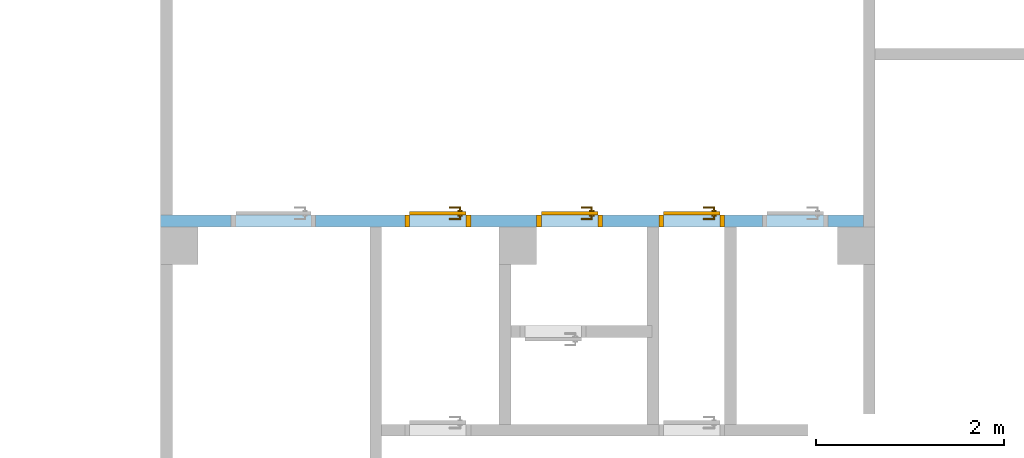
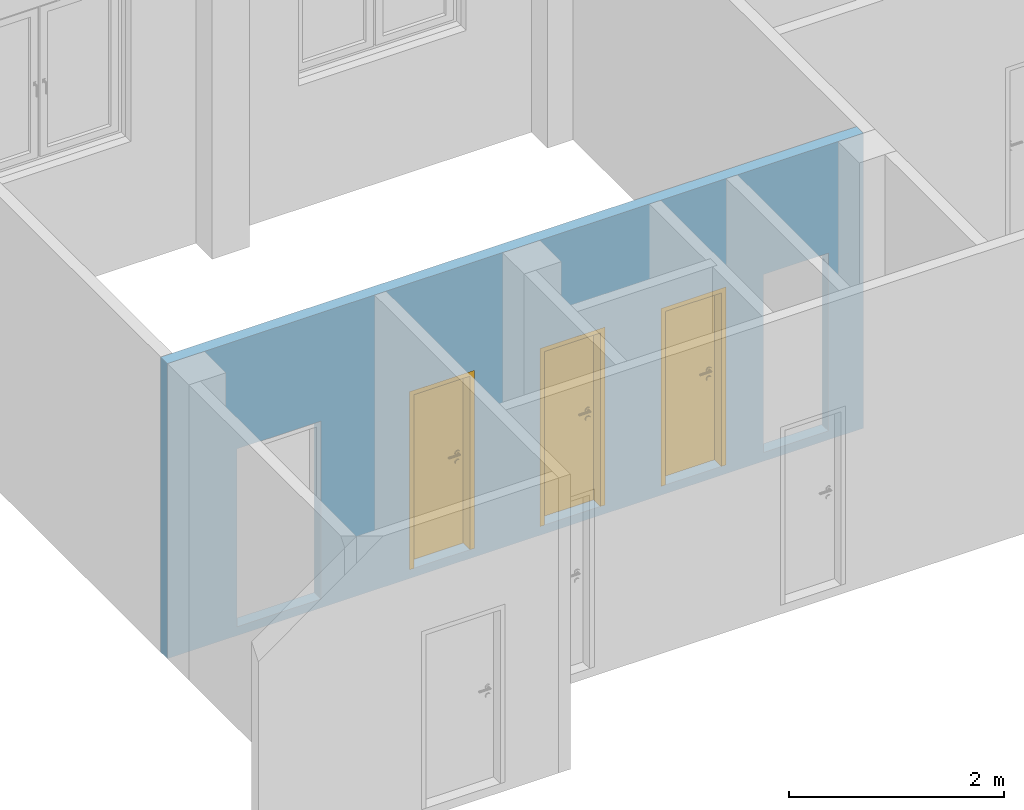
# One storey, part 5 of 37: 3 doors, 5 openings, plus 1 element that does not belong to this part.
"""IFC4 building model written with IfcOpenShell, lengths in metres."""

import ifcopenshell
import ifcopenshell.guid

model = None  # the IFC model being written
_history = None  # IfcOwnerHistory: only IFC2X3 demands one
_inside = {}  # id of a spatial element -> (the spatial element, [elements in it])
_under = {}  # id of a project, library or spatial element -> (it, [spatial elements below it])
_declared = {}  # id of a project -> (the project, [libraries it declares])
_typed = {}  # id of a type object -> (the type object, [elements of that type])
_made_of = {}  # id of a material, layer set ... -> (it, [elements and type objects made of it])


def new_model(schema):
    """Start an empty IFC model of exactly this schema.

    Asked for "IFC4X3", IfcOpenShell would pick the latest addendum, in which some entities
    have other attributes; the version numbers below select the first issue.
    IFC2X3 requires an IfcOwnerHistory on every rooted entity: one is made here for all.
    """
    global model, _history
    if schema == "IFC4X3":
        model = ifcopenshell.file(schema_version=(4, 3, 0, 0))
    else:
        model = ifcopenshell.file(schema=schema)
    _inside.clear()
    _under.clear()
    _declared.clear()
    _typed.clear()
    _made_of.clear()
    _history = None
    if model.schema == "IFC2X3":
        org = make("IfcOrganization", Name="unknown")
        user = make(
            "IfcPersonAndOrganization",
            ThePerson=make("IfcPerson", FamilyName="unknown"),
            TheOrganization=org,
        )
        app = make(
            "IfcApplication",
            ApplicationDeveloper=org,
            Version="unknown",
            ApplicationFullName="unknown",
            ApplicationIdentifier="unknown",
        )
        _history = make(
            "IfcOwnerHistory",
            OwningUser=user,
            OwningApplication=app,
            ChangeAction="ADDED",
            CreationDate=0,
        )
    return model


def make(cls, **values):
    """One entity of the class cls with the attributes given. An attribute that is None is left unset."""
    return model.create_entity(
        cls, **{name: value for name, value in values.items() if value is not None}
    )


def entity(cls, *values):
    """Any entity or typed value of the class cls, its attributes in the order of the schema. None: left unset."""
    e = model.create_entity(cls)
    for i, value in enumerate(values):
        if value is not None:
            e[i] = value
    return e


def rooted(cls, **values):
    """An entity with a GlobalId (a new one), such as an element, a storey or a relation."""
    return make(cls, GlobalId=ifcopenshell.guid.new(), OwnerHistory=_history, **values)


def si_unit(unit_type, name, prefix=None):
    """IfcSIUnit, for example si_unit("LENGTHUNIT", "METRE", prefix="MILLI")."""
    return make("IfcSIUnit", UnitType=unit_type, Prefix=prefix, Name=name)


def converted_unit(unit_type, name, factor, base, dimensions=None, offset=None):
    """IfcConversionBasedUnit, such as the inch: factor (a typed value) times the base unit."""
    return make(
        "IfcConversionBasedUnit"
        if offset is None
        else "IfcConversionBasedUnitWithOffset",
        ConversionOffset=offset,
        Dimensions=None
        if dimensions is None
        else entity("IfcDimensionalExponents", *dimensions),
        UnitType=unit_type,
        Name=name,
        ConversionFactor=make(
            "IfcMeasureWithUnit", ValueComponent=factor, UnitComponent=base
        ),
    )


def derived_unit(unit_type, elements):
    """IfcDerivedUnit: a product of units, each with its exponent."""
    return make(
        "IfcDerivedUnit",
        Elements=[
            make("IfcDerivedUnitElement", Unit=unit, Exponent=power)
            for unit, power in elements
        ],
        UnitType=unit_type,
    )


def assignment(units):
    """IfcUnitAssignment: the units of a project."""
    return None if units is None else make("IfcUnitAssignment", Units=units)


def point(xyz):
    """IfcCartesianPoint."""
    return None if xyz is None else make("IfcCartesianPoint", Coordinates=xyz)


def direction(xyz):
    """IfcDirection."""
    return None if xyz is None else make("IfcDirection", DirectionRatios=xyz)


def frame(location, z_axis=None, x_axis=None):
    """IfcAxis2Placement3D, a coordinate frame: its origin and axes. An axis left out is left unset."""
    return make(
        "IfcAxis2Placement3D",
        Location=point(location),
        Axis=direction(z_axis),
        RefDirection=direction(x_axis),
    )


def frame_2d(location, x_axis=None):
    """IfcAxis2Placement2D, a coordinate frame in the plane: its origin and x axis."""
    return make(
        "IfcAxis2Placement2D", Location=point(location), RefDirection=direction(x_axis)
    )


def origin():
    """The frame at (0, 0, 0) with its axes left unset."""
    return frame((0.0, 0.0, 0.0))


def origin_with_axes():
    """The frame at (0, 0, 0) with the z axis (0, 0, 1) and the x axis (1, 0, 0) written out."""
    return frame((0.0, 0.0, 0.0), z_axis=(0.0, 0.0, 1.0), x_axis=(1.0, 0.0, 0.0))


def place(relative_to, where):
    """IfcLocalPlacement: puts the frame where relative to a parent placement (None: the world)."""
    return make(
        "IfcLocalPlacement", PlacementRelTo=relative_to, RelativePlacement=where
    )


def context(
    kind, dimensions, precision=None, world=None, true_north=None, identifier=None
):
    """IfcGeometricRepresentationContext, for example the 3D "Model" context."""
    return make(
        "IfcGeometricRepresentationContext",
        ContextIdentifier=identifier,
        ContextType=kind,
        CoordinateSpaceDimension=dimensions,
        Precision=precision,
        WorldCoordinateSystem=world,
        TrueNorth=true_north,
    )


def subcontext(parent, identifier, kind, view, scale=None):
    """IfcGeometricRepresentationSubContext, for example "Body" below "Model"."""
    return make(
        "IfcGeometricRepresentationSubContext",
        ContextIdentifier=identifier,
        ContextType=kind,
        ParentContext=parent,
        TargetScale=scale,
        TargetView=view,
    )


def project(units=None, contexts=None):
    """IfcProject with its units and contexts."""
    return rooted(
        "IfcProject",
        Name="project",
        RepresentationContexts=contexts,
        UnitsInContext=assignment(units),
    )


def spatial(cls, under=None, at=None, **own):
    """A site, building, storey or space (cls), placed at a placement, below another one or the project."""
    s = rooted(cls, ObjectPlacement=at, **own)
    if under is not None:
        _under.setdefault(under.id(), (under, []))[1].append(s)
    return s


def polyline(points):
    """IfcPolyline through the points."""
    return make("IfcPolyline", Points=[point(p) for p in points])


def profile(cls, at=None, kind="AREA", **sizes):
    """A parametric profile (cls). Its sizes go by their IFC names, for example OverallWidth=200.0."""
    return make(cls, ProfileType=kind, Position=at, **sizes)


def rectangle(**sizes):
    """IfcRectangleProfileDef."""
    return profile("IfcRectangleProfileDef", **sizes)


def outline(outer, holes=None, kind="AREA"):
    """IfcArbitraryClosedProfileDef: a profile drawn as a closed curve; with holes, ...WithVoids."""
    if holes is None:
        return make("IfcArbitraryClosedProfileDef", ProfileType=kind, OuterCurve=outer)
    return make(
        "IfcArbitraryProfileDefWithVoids",
        ProfileType=kind,
        OuterCurve=outer,
        InnerCurves=holes,
    )


def extrude(swept, where, along, depth):
    """IfcExtrudedAreaSolid: the profile swept, set in the frame where, extruded along a direction by depth."""
    return make(
        "IfcExtrudedAreaSolid",
        SweptArea=swept,
        Position=where,
        ExtrudedDirection=direction(along),
        Depth=depth,
    )


def faces_of(points, faces, orient=None, outer=None):
    """IfcFace entities. A face is a list of loops; a loop is a list of indices into points, from 0.

    orient and outer hold one flag for each loop. By default every Orientation is true, the
    first loop of a face is its IfcFaceOuterBound and the others are IfcFaceBound.
    """
    made = []
    for i, loops in enumerate(faces):
        bounds = []
        for j, loop in enumerate(loops):
            is_outer = j == 0 if outer is None else outer[i][j]
            bounds.append(
                make(
                    "IfcFaceOuterBound" if is_outer else "IfcFaceBound",
                    Bound=make("IfcPolyLoop", Polygon=[points[k] for k in loop]),
                    Orientation=True if orient is None else orient[i][j],
                )
            )
        made.append(make("IfcFace", Bounds=bounds))
    return made


def closed_shell(faces, orient=None, outer=None):
    """The faces of one IfcClosedShell. faceted_brep and surface_model build it on their shared points."""
    return ("IfcClosedShell", faces, orient, outer)


def open_shell(faces, orient=None, outer=None):
    """The faces of one IfcOpenShell. surface_model builds it on its shared points."""
    return ("IfcOpenShell", faces, orient, outer)


def surface_model(cls, points, shells):
    """IfcFaceBasedSurfaceModel or IfcShellBasedSurfaceModel (cls): surfaces that need not close."""
    shared = [point(p) for p in points]
    made = [make(c, CfsFaces=faces_of(shared, fs, o, b)) for c, fs, o, b in shells]
    if cls == "IfcFaceBasedSurfaceModel":
        return make(cls, FbsmFaces=made)
    return make(cls, SbsmBoundary=made)


def shape(context_of_items, identifier, shape_type, items):
    """IfcShapeRepresentation: the items that make up one representation, for example the "Body"."""
    return make(
        "IfcShapeRepresentation",
        ContextOfItems=context_of_items,
        RepresentationIdentifier=identifier,
        RepresentationType=shape_type,
        Items=items,
    )


def source(mapping_origin, context_of_items, identifier, shape_type, items):
    """IfcRepresentationMap: a shape defined once, which mapped items show again and again."""
    return make(
        "IfcRepresentationMap",
        MappingOrigin=mapping_origin,
        MappedRepresentation=shape(context_of_items, identifier, shape_type, items),
    )


def transform(
    local_origin,
    x_axis=None,
    y_axis=None,
    z_axis=None,
    scale=None,
    scale2=None,
    scale3=None,
    uniform=True,
):
    """IfcCartesianTransformationOperator3D, or its non-uniform kind. x_axis, y_axis, z_axis: its Axis1, 2, 3."""
    if uniform:
        return make(
            "IfcCartesianTransformationOperator3D",
            Axis1=direction(x_axis),
            Axis2=direction(y_axis),
            LocalOrigin=point(local_origin),
            Scale=scale,
            Axis3=direction(z_axis),
        )
    return make(
        "IfcCartesianTransformationOperator3DnonUniform",
        Axis1=direction(x_axis),
        Axis2=direction(y_axis),
        LocalOrigin=point(local_origin),
        Scale=scale,
        Axis3=direction(z_axis),
        Scale2=scale2,
        Scale3=scale3,
    )


def mapped(mapping_source, mapping_target):
    """IfcMappedItem: shows the shape of a source again, moved by a transform."""
    return make(
        "IfcMappedItem", MappingSource=mapping_source, MappingTarget=mapping_target
    )


def material(Name=None, Category=None):
    """IfcMaterial."""
    return make("IfcMaterial", Name=Name, Category=Category)


def layer(
    of_material, thickness, ventilated=None, Name=None, Category=None, Priority=None
):
    """IfcMaterialLayer: one layer of a wall or slab, of a material (None: an air gap)."""
    return make(
        "IfcMaterialLayer",
        Material=of_material,
        LayerThickness=thickness,
        IsVentilated=ventilated,
        Name=Name,
        Category=Category,
        Priority=Priority,
    )


def layer_set(layers, Name=None):
    """IfcMaterialLayerSet."""
    return make("IfcMaterialLayerSet", MaterialLayers=layers, LayerSetName=Name)


def layer_usage(for_layer_set, set_direction, sense, offset, extent=None):
    """IfcMaterialLayerSetUsage: how a layer set lies in its element."""
    return make(
        "IfcMaterialLayerSetUsage",
        ForLayerSet=for_layer_set,
        LayerSetDirection=set_direction,
        DirectionSense=sense,
        OffsetFromReferenceLine=offset,
        ReferenceExtent=extent,
    )


def made_of(thing, what):
    """Note that an element or type object is made of a material, layer set ...; save() writes the relation."""
    if what is not None:
        _made_of.setdefault(what.id(), (what, []))[1].append(thing)
    return thing


def type_object(cls, material=None, **own):
    """A type object (cls), such as IfcWallType, which elements share."""
    return made_of(rooted(cls, **own), material)


def element(
    cls,
    number,
    at=None,
    inside=None,
    cuts=None,
    type_object=None,
    material=None,
    context=None,
    identifier="Body",
    shape_type=None,
    held_by="IfcProductDefinitionShape",
    body=None,
    shapes=None,
    **own,
):
    """One element of the class cls, such as IfcWall. Its Tag is "e" and its number.

    at: its placement. inside: the storey or other place that contains it. cuts: it is an
    opening in that element (IfcRelVoidsElement). A single representation is given by context,
    identifier, shape_type and body (its items); several are given by shapes. held_by: the class
    of the entity that holds the representations. save() writes the other relations.
    """
    e = rooted(cls, Tag="e%d" % number, ObjectPlacement=at, **own)
    if body is not None:
        shapes = [shape(context, identifier, shape_type, body)]
    if shapes is not None:
        e.Representation = make(held_by, Representations=shapes)
    if inside is not None:
        _inside.setdefault(inside.id(), (inside, []))[1].append(e)
    if cuts is not None:
        rooted(
            "IfcRelVoidsElement", RelatingBuildingElement=cuts, RelatedOpeningElement=e
        )
    if type_object is not None:
        _typed.setdefault(type_object.id(), (type_object, []))[1].append(e)
    return made_of(e, material)


def fill(opening, filler):
    """IfcRelFillsElement: the door or window that sits in an opening."""
    return rooted(
        "IfcRelFillsElement",
        RelatingOpeningElement=opening,
        RelatedBuildingElement=filler,
    )


def aggregate(whole, parts):
    """IfcRelAggregates: a whole, such as a stair, and the parts it consists of."""
    return rooted("IfcRelAggregates", RelatingObject=whole, RelatedObjects=parts)


def save(model, path):
    """Write the relations noted so far, then the file.

    IfcRelAggregates (storeys below a building ...), IfcRelContainedInSpatialStructure (elements
    in a storey), IfcRelDefinesByType, IfcRelAssociatesMaterial and IfcRelDeclares: one each for
    every whole, place, type object, material and project.
    """
    for whole, parts in _under.values():
        aggregate(whole, parts)
    for where, things in _inside.values():
        rooted(
            "IfcRelContainedInSpatialStructure",
            RelatedElements=things,
            RelatingStructure=where,
        )
    for kind, things in _typed.values():
        rooted("IfcRelDefinesByType", RelatedObjects=things, RelatingType=kind)
    for what, things in _made_of.values():
        rooted("IfcRelAssociatesMaterial", RelatedObjects=things, RelatingMaterial=what)
    for by, libraries in _declared.values():
        rooted("IfcRelDeclares", RelatingContext=by, RelatedDefinitions=libraries)
    model.write(path)


model = new_model("IFC4")

# Units and contexts
model_context = context("Model", 3, precision=1e-05, world=origin())
body_context = subcontext(model_context, "Body", "Model", "MODEL_VIEW")
ifc_project = project(units=[si_unit("LENGTHUNIT", "METRE"), si_unit("AREAUNIT", "SQUARE_METRE"), si_unit("VOLUMEUNIT", "CUBIC_METRE"), si_unit("MASSUNIT", "GRAM", prefix="KILO"), converted_unit("PLANEANGLEUNIT", "DEGREE", entity("IfcPlaneAngleMeasure", 0.0174532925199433), si_unit("PLANEANGLEUNIT", "RADIAN"), dimensions=[0, 0, 0, 0, 0, 0, 0]), derived_unit("THERMALTRANSMITTANCEUNIT", [(si_unit("POWERUNIT", "WATT"), 1), (si_unit("THERMODYNAMICTEMPERATUREUNIT", "KELVIN"), -1), (si_unit("LENGTHUNIT", "METRE"), -2)]), derived_unit("VOLUMETRICFLOWRATEUNIT", [(si_unit("LENGTHUNIT", "METRE"), 3), (converted_unit("TIMEUNIT", "hour", entity("IfcTimeMeasure", 3600.0), si_unit("TIMEUNIT", "SECOND"), dimensions=[0, 0, 1, 0, 0, 0, 0]), -1), (si_unit("LENGTHUNIT", "METRE"), -1)])], contexts=[model_context])

# Site, building, storey
site_placement = place(None, origin())
site = spatial("IfcSite", under=ifc_project, at=site_placement, Name="3. ASŘ", CompositionType="ELEMENT")
building_placement = place(site_placement, origin())
building = spatial("IfcBuilding", under=site, at=building_placement, Name="Pavilon B", CompositionType="ELEMENT")
storey_placement = place(building_placement, origin())
storey = spatial("IfcBuildingStorey", under=building, at=storey_placement, Name="Půdorys 1.NP", CompositionType="ELEMENT", Elevation=0.0)

# Wall, openings, doors
ifc_material = material(Name="ZDIVO Z CDm")
ifc_layer = layer(ifc_material, 0.125)
ifc_layer_set = layer_set([ifc_layer])
ifc_layer_usage = layer_usage(ifc_layer_set, "AXIS2", "POSITIVE", 0.0)
wall_placement = place(storey_placement, frame((13.6, -21.4, -0.1)))
wall = element("IfcWall", 1, at=wall_placement, inside=storey, material=ifc_layer_usage, Name="ZDIVO Z CDm", context=body_context, shape_type="SweptSolid", body=[
    extrude(rectangle(XDim=7.475, YDim=0.125, at=frame_2d((3.7375, 0.0625), x_axis=(1.0, 0.0))), origin_with_axes(), (0.0, 0.0, 1.0), 3.35),
])
opening_1_placement = place(wall_placement, frame((7.1, 0.125, 0.1), z_axis=(0.0, -1.0, 0.0), x_axis=(0.0, 0.0, 1.0)))
element("IfcOpeningElement", 2, at=opening_1_placement, cuts=wall, Name="Dveřní otvor", ObjectType="Opening", context=body_context, shape_type="SweptSolid", body=[
    extrude(outline(polyline([(0.0, 0.7), (2.02, 0.7), (2.02, 0.0), (0.0, 0.0), (0.0, 0.7)])), origin_with_axes(), (0.0, 0.0, 1.0), 0.125),
])
opening_2_placement = place(wall_placement, frame((1.65, 0.125, 0.1), z_axis=(0.0, -1.0, 0.0), x_axis=(0.0, 0.0, 1.0)))
element("IfcOpeningElement", 3, at=opening_2_placement, cuts=wall, Name="Dveřní otvor", ObjectType="Opening", context=body_context, shape_type="SweptSolid", body=[
    extrude(outline(polyline([(0.0, 0.9), (2.02, 0.9), (2.02, 0.0), (0.0, 0.0), (0.0, 0.9)])), origin_with_axes(), (0.0, 0.0, 1.0), 0.125),
])
opening_3_placement = place(wall_placement, frame((3.3, 0.125, 0.1), z_axis=(0.0, -1.0, 0.0), x_axis=(0.0, 0.0, 1.0)))
opening_3 = element("IfcOpeningElement", 4, at=opening_3_placement, cuts=wall, Name="Dveřní otvor", ObjectType="Opening", context=body_context, shape_type="SweptSolid", body=[
    extrude(outline(polyline([(0.0, 0.700000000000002), (2.02, 0.700000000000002), (2.02, 0.0), (0.0, 0.0), (0.0, 0.700000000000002)])), origin_with_axes(), (0.0, 0.0, 1.0), 0.125),
])
opening_4_placement = place(wall_placement, frame((6.0, 0.125, 0.1), z_axis=(0.0, -1.0, 0.0), x_axis=(0.0, 0.0, 1.0)))
opening_4 = element("IfcOpeningElement", 5, at=opening_4_placement, cuts=wall, Name="Dveřní otvor", ObjectType="Opening", context=body_context, shape_type="SweptSolid", body=[
    extrude(outline(polyline([(0.0, 0.7), (2.02, 0.7), (2.02, 0.0), (0.0, 0.0), (0.0, 0.7)])), origin_with_axes(), (0.0, 0.0, 1.0), 0.125),
])
opening_5_placement = place(wall_placement, frame((4.7, 0.125, 0.1), z_axis=(0.0, -1.0, 0.0), x_axis=(0.0, 0.0, 1.0)))
opening_5 = element("IfcOpeningElement", 6, at=opening_5_placement, cuts=wall, Name="Dveřní otvor", ObjectType="Opening", context=body_context, shape_type="SweptSolid", body=[
    extrude(outline(polyline([(0.0, 0.7), (2.02, 0.7), (2.02, 0.0), (0.0, 0.0), (0.0, 0.7)])), origin_with_axes(), (0.0, 0.0, 1.0), 0.125),
])
door_type_1 = type_object("IfcDoorType", Name="D101", OperationType="NOTDEFINED", ParameterTakesPrecedence=False, PredefinedType="DOOR")
shared_shape = source(origin_with_axes(), body_context, "Body", "SurfaceModel", [
    surface_model("IfcShellBasedSurfaceModel", [(0.0, 0.125, 2.02), (0.0, 0.125, -7.65404249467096e-18), (0.05, 0.125, -7.65404249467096e-18), (0.05, 0.125, 2.02), (0.0, 0.0, 7.65404249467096e-18), (0.0, 2.41584530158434e-16, 2.02), (0.05, 2.41584530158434e-16, 2.02), (0.05, 0.0, 7.65404249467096e-18)], [closed_shell([[[0, 1, 2, 3]], [[4, 5, 6, 7]], [[1, 0, 5, 4]], [[2, 1, 4, 7]], [[3, 2, 7, 6]], [[0, 3, 6, 5]]], orient=[[False], [False], [False], [False], [False], [False]])]),
    surface_model("IfcShellBasedSurfaceModel", [(0.65, 0.125, 2.02), (0.65, 0.125, -7.65404249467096e-18), (0.7, 0.125, -7.65404249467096e-18), (0.7, 0.125, 2.02), (0.65, 0.0, 7.65404249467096e-18), (0.65, 2.41584530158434e-16, 2.02), (0.7, 2.41584530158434e-16, 2.02), (0.7, 0.0, 7.65404249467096e-18)], [closed_shell([[[0, 1, 2, 3]], [[4, 5, 6, 7]], [[1, 0, 5, 4]], [[2, 1, 4, 7]], [[3, 2, 7, 6]], [[0, 3, 6, 5]]], orient=[[False], [False], [False], [False], [False], [False]])]),
    surface_model("IfcShellBasedSurfaceModel", [(0.05, 0.125, 2.02), (0.05, 0.125, 1.97), (0.65, 0.125, 1.97), (0.65, 0.125, 2.02), (0.05, 2.41584530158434e-16, 1.97), (0.05, 2.41584530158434e-16, 2.02), (0.65, 2.41584530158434e-16, 2.02), (0.65, 2.41584530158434e-16, 1.97)], [closed_shell([[[0, 1, 2, 3]], [[4, 5, 6, 7]], [[1, 0, 5, 4]], [[2, 1, 4, 7]], [[3, 2, 7, 6]], [[0, 3, 6, 5]]], orient=[[False], [False], [False], [False], [False], [False]])]),
    surface_model("IfcShellBasedSurfaceModel", [(0.05, 0.165, 1.97), (0.05, 0.165, -1.25526296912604e-17), (0.65, 0.165, -1.25526296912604e-17), (0.65, 0.165, 1.97), (0.05, 0.125, -7.65404249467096e-18), (0.05, 0.125, 1.97), (0.65, 0.125, 1.97), (0.65, 0.125, -7.65404249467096e-18)], [closed_shell([[[0, 1, 2, 3]], [[4, 5, 6, 7]], [[1, 0, 5, 4]], [[2, 1, 4, 7]], [[3, 2, 7, 6]], [[0, 3, 6, 5]]], orient=[[False], [False], [False], [False], [False], [False]])]),
    surface_model("IfcShellBasedSurfaceModel", [(0.608815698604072, 0.125, 0.93625), (0.6125, 0.125, 0.95), (0.608815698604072, 0.125, 0.96375), (0.59875, 0.125, 0.973815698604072), (0.585, 0.125, 0.9775), (0.57125, 0.125, 0.973815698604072), (0.561184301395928, 0.125, 0.96375), (0.5575, 0.125, 0.95), (0.561184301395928, 0.125, 0.93625), (0.57125, 0.125, 0.926184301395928), (0.585, 0.125, 0.9225), (0.59875, 0.125, 0.926184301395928), (0.6125, 0.1125, 0.95), (0.608815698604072, 0.1125, 0.93625), (0.59875, 0.1125, 0.926184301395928), (0.585, 0.1125, 0.9225), (0.57125, 0.1125, 0.926184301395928), (0.561184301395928, 0.1125, 0.93625), (0.5575, 0.1125, 0.95), (0.561184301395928, 0.1125, 0.96375), (0.57125, 0.1125, 0.973815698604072), (0.585, 0.1125, 0.9775), (0.59875, 0.1125, 0.973815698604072), (0.608815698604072, 0.1125, 0.96375)], [closed_shell([[[0, 1, 2, 3, 4, 5, 6, 7, 8, 9, 10, 11]], [[12, 13, 14, 15, 16, 17, 18, 19, 20, 21, 22, 23]], [[1, 0, 13, 12]], [[2, 1, 12, 23]], [[3, 2, 23, 22]], [[4, 3, 22, 21]], [[5, 4, 21, 20]], [[6, 5, 20, 19]], [[7, 6, 19, 18]], [[8, 7, 18, 17]], [[9, 8, 17, 16]], [[10, 9, 16, 15]], [[11, 10, 15, 14]], [[0, 11, 14, 13]]], orient=[[False], [False], [False], [False], [False], [False], [False], [False], [False], [False], [False], [False], [False], [False]])]),
    surface_model("IfcShellBasedSurfaceModel", [(0.608815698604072, 0.125, 1.03625), (0.6125, 0.125, 1.05), (0.608815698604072, 0.125, 1.06375), (0.59875, 0.125, 1.07381569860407), (0.585, 0.125, 1.0775), (0.57125, 0.125, 1.07381569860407), (0.561184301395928, 0.125, 1.06375), (0.5575, 0.125, 1.05), (0.561184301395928, 0.125, 1.03625), (0.57125, 0.125, 1.02618430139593), (0.585, 0.125, 1.0225), (0.59875, 0.125, 1.02618430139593), (0.6125, 0.1125, 1.05), (0.608815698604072, 0.1125, 1.03625), (0.59875, 0.1125, 1.02618430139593), (0.585, 0.1125, 1.0225), (0.57125, 0.1125, 1.02618430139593), (0.561184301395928, 0.1125, 1.03625), (0.5575, 0.1125, 1.05), (0.561184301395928, 0.1125, 1.06375), (0.57125, 0.1125, 1.07381569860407), (0.585, 0.1125, 1.0775), (0.59875, 0.1125, 1.07381569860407), (0.608815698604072, 0.1125, 1.06375)], [closed_shell([[[0, 1, 2, 3, 4, 5, 6, 7, 8, 9, 10, 11]], [[12, 13, 14, 15, 16, 17, 18, 19, 20, 21, 22, 23]], [[1, 0, 13, 12]], [[2, 1, 12, 23]], [[3, 2, 23, 22]], [[4, 3, 22, 21]], [[5, 4, 21, 20]], [[6, 5, 20, 19]], [[7, 6, 19, 18]], [[8, 7, 18, 17]], [[9, 8, 17, 16]], [[10, 9, 16, 15]], [[11, 10, 15, 14]], [[0, 11, 14, 13]]], orient=[[False], [False], [False], [False], [False], [False], [False], [False], [False], [False], [False], [False], [False], [False]])]),
    surface_model("IfcShellBasedSurfaceModel", [(0.585, 0.125, 1.06), (0.58, 0.125, 1.05866025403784), (0.576339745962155, 0.125, 1.055), (0.575, 0.125, 1.05), (0.576339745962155, 0.125, 1.045), (0.58, 0.125, 1.04133974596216), (0.585, 0.125, 1.04), (0.59, 0.125, 1.04133974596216), (0.593660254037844, 0.125, 1.045), (0.595, 0.125, 1.05), (0.593660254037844, 0.125, 1.055), (0.59, 0.125, 1.05866025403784), (0.59, 0.0800000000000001, 1.05866025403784), (0.585, 0.0850000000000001, 1.06), (0.593660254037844, 0.0763397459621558, 1.055), (0.595, 0.0750000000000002, 1.05), (0.593660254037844, 0.0763397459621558, 1.045), (0.59, 0.0800000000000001, 1.04133974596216), (0.585, 0.0850000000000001, 1.04), (0.58, 0.0900000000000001, 1.04133974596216), (0.576339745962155, 0.0936602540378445, 1.045), (0.575, 0.0950000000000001, 1.05), (0.576339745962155, 0.0936602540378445, 1.055), (0.58, 0.0900000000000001, 1.05866025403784), (0.47, 0.0800000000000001, 1.05866025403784), (0.47, 0.0850000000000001, 1.06), (0.47, 0.0763397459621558, 1.055), (0.47, 0.0750000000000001, 1.05), (0.47, 0.0763397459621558, 1.045), (0.47, 0.0800000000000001, 1.04133974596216), (0.47, 0.0850000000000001, 1.04), (0.47, 0.0900000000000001, 1.04133974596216), (0.47, 0.0936602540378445, 1.045), (0.47, 0.0950000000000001, 1.05), (0.47, 0.0936602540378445, 1.055), (0.47, 0.0900000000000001, 1.05866025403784)], [open_shell([[[0, 1, 2, 3, 4, 5, 6, 7, 8, 9, 10, 11]], [[0, 11, 12, 13]], [[11, 10, 14, 12]], [[10, 9, 15, 14]], [[9, 8, 16, 15]], [[8, 7, 17, 16]], [[7, 6, 18, 17]], [[6, 5, 19, 18]], [[5, 4, 20, 19]], [[4, 3, 21, 20]], [[3, 2, 22, 21]], [[2, 1, 23, 22]], [[1, 0, 13, 23]], [[13, 12, 24, 25]], [[12, 14, 26, 24]], [[14, 15, 27, 26]], [[15, 16, 28, 27]], [[16, 17, 29, 28]], [[17, 18, 30, 29]], [[18, 19, 31, 30]], [[19, 20, 32, 31]], [[20, 21, 33, 32]], [[21, 22, 34, 33]], [[22, 23, 35, 34]], [[23, 13, 25, 35]]], orient=[[False], [False], [False], [False], [False], [False], [False], [False], [False], [False], [False], [False], [False], [False], [False], [False], [False], [False], [False], [False], [False], [False], [False], [False], [False]])]),
    surface_model("IfcShellBasedSurfaceModel", [(0.608815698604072, 0.165, 0.93625), (0.59875, 0.165, 0.926184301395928), (0.585, 0.165, 0.9225), (0.57125, 0.165, 0.926184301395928), (0.561184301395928, 0.165, 0.93625), (0.5575, 0.165, 0.95), (0.561184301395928, 0.165, 0.96375), (0.57125, 0.165, 0.973815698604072), (0.585, 0.165, 0.9775), (0.59875, 0.165, 0.973815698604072), (0.608815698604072, 0.165, 0.96375), (0.6125, 0.165, 0.95), (0.6125, 0.1775, 0.95), (0.608815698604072, 0.1775, 0.96375), (0.59875, 0.1775, 0.973815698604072), (0.585, 0.1775, 0.9775), (0.57125, 0.1775, 0.973815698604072), (0.561184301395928, 0.1775, 0.96375), (0.5575, 0.1775, 0.95), (0.561184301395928, 0.1775, 0.93625), (0.57125, 0.1775, 0.926184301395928), (0.585, 0.1775, 0.9225), (0.59875, 0.1775, 0.926184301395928), (0.608815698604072, 0.1775, 0.93625)], [closed_shell([[[0, 1, 2, 3, 4, 5, 6, 7, 8, 9, 10, 11]], [[12, 13, 14, 15, 16, 17, 18, 19, 20, 21, 22, 23]], [[11, 12, 23, 0]], [[10, 13, 12, 11]], [[9, 14, 13, 10]], [[8, 15, 14, 9]], [[7, 16, 15, 8]], [[6, 17, 16, 7]], [[5, 18, 17, 6]], [[4, 19, 18, 5]], [[3, 20, 19, 4]], [[2, 21, 20, 3]], [[1, 22, 21, 2]], [[0, 23, 22, 1]]], orient=[[False], [False], [False], [False], [False], [False], [False], [False], [False], [False], [False], [False], [False], [False]])]),
    surface_model("IfcShellBasedSurfaceModel", [(0.608815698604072, 0.165, 1.03625), (0.59875, 0.165, 1.02618430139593), (0.585, 0.165, 1.0225), (0.57125, 0.165, 1.02618430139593), (0.561184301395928, 0.165, 1.03625), (0.5575, 0.165, 1.05), (0.561184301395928, 0.165, 1.06375), (0.57125, 0.165, 1.07381569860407), (0.585, 0.165, 1.0775), (0.59875, 0.165, 1.07381569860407), (0.608815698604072, 0.165, 1.06375), (0.6125, 0.165, 1.05), (0.6125, 0.1775, 1.05), (0.608815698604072, 0.1775, 1.06375), (0.59875, 0.1775, 1.07381569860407), (0.585, 0.1775, 1.0775), (0.57125, 0.1775, 1.07381569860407), (0.561184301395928, 0.1775, 1.06375), (0.5575, 0.1775, 1.05), (0.561184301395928, 0.1775, 1.03625), (0.57125, 0.1775, 1.02618430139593), (0.585, 0.1775, 1.0225), (0.59875, 0.1775, 1.02618430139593), (0.608815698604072, 0.1775, 1.03625)], [closed_shell([[[0, 1, 2, 3, 4, 5, 6, 7, 8, 9, 10, 11]], [[12, 13, 14, 15, 16, 17, 18, 19, 20, 21, 22, 23]], [[11, 12, 23, 0]], [[10, 13, 12, 11]], [[9, 14, 13, 10]], [[8, 15, 14, 9]], [[7, 16, 15, 8]], [[6, 17, 16, 7]], [[5, 18, 17, 6]], [[4, 19, 18, 5]], [[3, 20, 19, 4]], [[2, 21, 20, 3]], [[1, 22, 21, 2]], [[0, 23, 22, 1]]], orient=[[False], [False], [False], [False], [False], [False], [False], [False], [False], [False], [False], [False], [False], [False]])]),
    surface_model("IfcShellBasedSurfaceModel", [(0.585, 0.165, 1.06), (0.59, 0.165, 1.05866025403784), (0.593660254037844, 0.165, 1.055), (0.595, 0.165, 1.05), (0.593660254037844, 0.165, 1.045), (0.59, 0.165, 1.04133974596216), (0.585, 0.165, 1.04), (0.58, 0.165, 1.04133974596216), (0.576339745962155, 0.165, 1.045), (0.575, 0.165, 1.05), (0.576339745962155, 0.165, 1.055), (0.58, 0.165, 1.05866025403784), (0.585, 0.205, 1.06), (0.59, 0.21, 1.05866025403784), (0.593660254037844, 0.213660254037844, 1.055), (0.595, 0.215, 1.05), (0.593660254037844, 0.213660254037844, 1.045), (0.59, 0.21, 1.04133974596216), (0.585, 0.205, 1.04), (0.58, 0.2, 1.04133974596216), (0.576339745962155, 0.196339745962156, 1.045), (0.575, 0.195, 1.05), (0.576339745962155, 0.196339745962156, 1.055), (0.58, 0.2, 1.05866025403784), (0.47, 0.205, 1.06), (0.47, 0.21, 1.05866025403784), (0.47, 0.213660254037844, 1.055), (0.47, 0.215, 1.05), (0.47, 0.213660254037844, 1.045), (0.47, 0.21, 1.04133974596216), (0.47, 0.205, 1.04), (0.47, 0.2, 1.04133974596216), (0.47, 0.196339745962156, 1.045), (0.47, 0.195, 1.05), (0.47, 0.196339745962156, 1.055), (0.47, 0.2, 1.05866025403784)], [open_shell([[[0, 1, 2, 3, 4, 5, 6, 7, 8, 9, 10, 11]], [[0, 12, 13, 1]], [[1, 13, 14, 2]], [[2, 14, 15, 3]], [[3, 15, 16, 4]], [[4, 16, 17, 5]], [[5, 17, 18, 6]], [[6, 18, 19, 7]], [[7, 19, 20, 8]], [[8, 20, 21, 9]], [[9, 21, 22, 10]], [[10, 22, 23, 11]], [[11, 23, 12, 0]], [[12, 24, 25, 13]], [[13, 25, 26, 14]], [[14, 26, 27, 15]], [[15, 27, 28, 16]], [[16, 28, 29, 17]], [[17, 29, 30, 18]], [[18, 30, 31, 19]], [[19, 31, 32, 20]], [[20, 32, 33, 21]], [[21, 33, 34, 22]], [[22, 34, 35, 23]], [[23, 35, 24, 12]]], orient=[[False], [False], [False], [False], [False], [False], [False], [False], [False], [False], [False], [False], [False], [False], [False], [False], [False], [False], [False], [False], [False], [False], [False], [False], [False]])]),
])
door_1_placement = place(opening_3_placement, frame((0.0, 0.7, 0.125), z_axis=(1.0, 0.0, 0.0), x_axis=(0.0, -1.0, 2.44929359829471e-16)))
door_1 = element("IfcDoor", 7, at=door_1_placement, inside=storey, type_object=door_type_1, Name="D101", OverallHeight=2.02, OverallWidth=0.7, context=body_context, shape_type="MappedRepresentation", body=[
    mapped(shared_shape, transform((0.0, 0.0, 0.0), x_axis=(1.0, 0.0, 0.0), y_axis=(0.0, 1.0, 0.0), z_axis=(0.0, 0.0, 1.0), scale=1.0)),
])
fill(opening_3, door_1)
door_type_2 = type_object("IfcDoorType", Name="D101", OperationType="NOTDEFINED", ParameterTakesPrecedence=False, PredefinedType="DOOR")
door_2_placement = place(opening_4_placement, frame((0.0, 0.7, 0.125), z_axis=(1.0, 0.0, 0.0), x_axis=(0.0, -1.0, 2.44929359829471e-16)))
door_2 = element("IfcDoor", 8, at=door_2_placement, inside=storey, type_object=door_type_2, Name="D101", OverallHeight=2.02, OverallWidth=0.7, context=body_context, shape_type="MappedRepresentation", body=[
    mapped(shared_shape, transform((0.0, 0.0, 0.0), x_axis=(1.0, 0.0, 0.0), y_axis=(0.0, 1.0, 0.0), z_axis=(0.0, 0.0, 1.0), scale=1.0)),
])
fill(opening_4, door_2)
door_type_3 = type_object("IfcDoorType", Name="D101", OperationType="NOTDEFINED", ParameterTakesPrecedence=False, PredefinedType="DOOR")
door_3_placement = place(opening_5_placement, frame((0.0, 0.7, 0.125), z_axis=(1.0, 0.0, 0.0), x_axis=(0.0, -1.0, 2.44929359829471e-16)))
door_3 = element("IfcDoor", 9, at=door_3_placement, inside=storey, type_object=door_type_3, Name="D101", OverallHeight=2.02, OverallWidth=0.7, context=body_context, shape_type="MappedRepresentation", body=[
    mapped(shared_shape, transform((0.0, 0.0, 0.0), x_axis=(1.0, 0.0, 0.0), y_axis=(0.0, 1.0, 0.0), z_axis=(0.0, 0.0, 1.0), scale=1.0)),
])
fill(opening_5, door_3)

save(model, "model.ifc")
